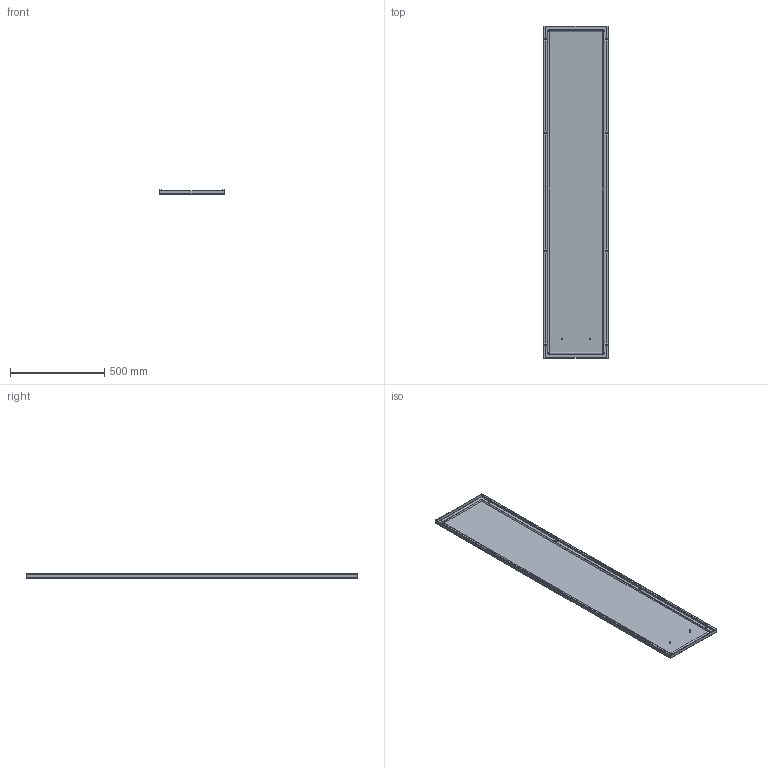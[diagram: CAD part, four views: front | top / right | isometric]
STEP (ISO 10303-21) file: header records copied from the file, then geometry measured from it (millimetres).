
FILE_DESCRIPTION(('CAx-IF Rec.Pracs.---Model Styling and Organization---1.2---2011-12-15','CAx-IF Rec.Pracs.---Geometric and Assembly Validation Properties---4.1---2014-06-16','CAx-IF Rec.Pracs.---PMI Polyline Presentation---2.0---2013-05-24'),'2;1');
FILE_NAME('R5LE1842.stp','2021-05-06T02:22:21+03:00',(''),(''),'STEP Interface 4.4 by CT CoreTechnologie','3D_Evolution4.4 by CT CoreTechnologie','');
FILE_SCHEMA(('AUTOMOTIVE_DESIGN { 1 0 10303 214 1 1 1 1 }'));
Length unit declared in the file: millimetre
Products named in the file (4): R5LE1842; Ì6õ12-A5100231_straight; PF 5x10 LE_-05; RB.0053.00.01.0_-05
Assembly tree (4 placements, depth 2):
  R5LE1842
    Ì6õ12-A5100231_straight  x2
    PF 5x10 LE_-05
    RB.0053.00.01.0_-05
Bounding box: 346 x 1761 x 21.5 mm (x, y, z)
Surface area: 1546666.5 mm2 (no closed solid volume)
Topology: 0 solids, 4 shells, 117 faces, 308 edges, 194 vertices
Faces by surface type: plane 63, bspline 32, cylinder 22
Entity records: 4297 total; most frequent: CARTESIAN_POINT 1353, ORIENTED_EDGE 596, DIRECTION 528, EDGE_CURVE 298, VECTOR 210, LINE 210, VERTEX_POINT 190, AXIS2_PLACEMENT_3D 159
